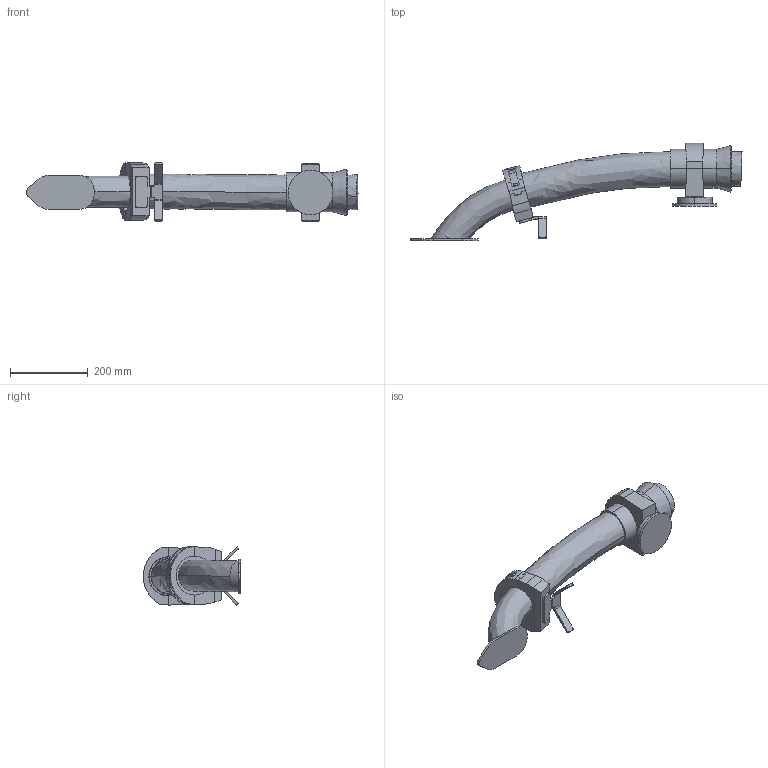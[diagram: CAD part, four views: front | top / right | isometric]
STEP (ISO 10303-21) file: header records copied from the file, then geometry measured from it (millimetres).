
FILE_DESCRIPTION (( 'STEP AP214' ), '1' );
FILE_NAME ('IRB5720-LID_155kg-260_OmniCore_rev00_LINK04_CABLE.step', '2025-07-08T11:05:50', ( '' ), ( '' ), 'SwSTEP 2.0', 'SolidWorks 2024', '' );
FILE_SCHEMA (( 'AUTOMOTIVE_DESIGN' ));
Length unit declared in the file: millimetre
Products named in the file (1): IRB5720-LID_155kg-260_OmniCore_rev00_LINK04_CABLE
Bounding box: 855.15 x 251 x 150.86 mm (x, y, z)
Volume: 6170281.3 mm3; surface area: 453215 mm2
Topology: 1 solids, 7 shells, 294 faces, 729 edges, 471 vertices
Faces by surface type: plane 155, cylinder 80, bspline 29, cone 26, sphere 4
Entity records: 15544 total; most frequent: CARTESIAN_POINT 5447, ORIENTED_EDGE 1458, DIRECTION 1392, EDGE_CURVE 729, AXIS2_PLACEMENT_3D 507, VERTEX_POINT 471, VECTOR 378, LINE 378
